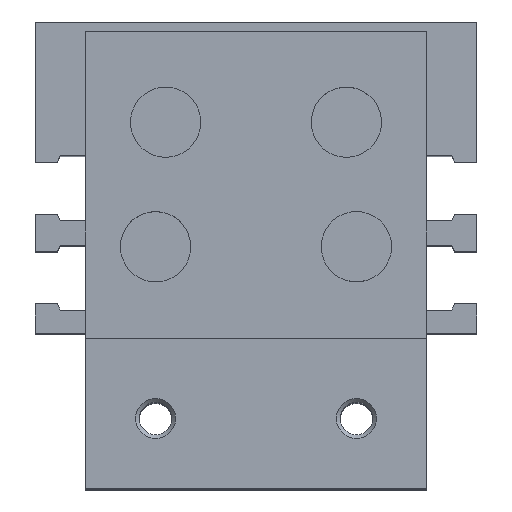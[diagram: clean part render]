
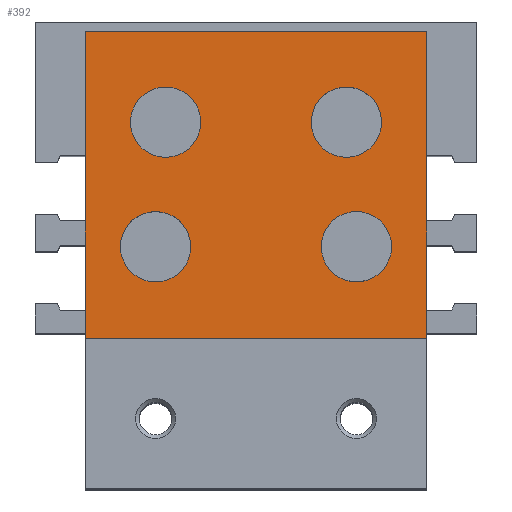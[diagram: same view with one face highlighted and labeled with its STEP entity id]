
A CAD part, top view. The second image highlights one B-rep face of the part: STEP entity #392.
In plain terms, the highlighted planar face has unit normal (0, 0, 1).
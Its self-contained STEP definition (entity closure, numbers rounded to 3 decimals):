
#392 = ADVANCED_FACE( '', ( #830, #831, #832, #833, #834 ), #835, .F. );
#830 = FACE_BOUND( '', #1256, .T. );
#831 = FACE_BOUND( '', #1257, .T. );
#832 = FACE_OUTER_BOUND( '', #1258, .T. );
#833 = FACE_BOUND( '', #1259, .T. );
#834 = FACE_BOUND( '', #1260, .T. );
#835 = PLANE( '', #1261 );
#1256 = EDGE_LOOP( '', ( #2132 ) );
#1257 = EDGE_LOOP( '', ( #2133 ) );
#1258 = EDGE_LOOP( '', ( #2134, #2135, #2136, #2137 ) );
#1259 = EDGE_LOOP( '', ( #2138 ) );
#1260 = EDGE_LOOP( '', ( #2139 ) );
#1261 = AXIS2_PLACEMENT_3D( '', #2140, #2141, #2142 );
#2132 = ORIENTED_EDGE( '', *, *, #2210, .F. );
#2133 = ORIENTED_EDGE( '', *, *, #2448, .F. );
#2134 = ORIENTED_EDGE( '', *, *, #2526, .T. );
#2135 = ORIENTED_EDGE( '', *, *, #2296, .F. );
#2136 = ORIENTED_EDGE( '', *, *, #2364, .F. );
#2137 = ORIENTED_EDGE( '', *, *, #2306, .T. );
#2138 = ORIENTED_EDGE( '', *, *, #2427, .F. );
#2139 = ORIENTED_EDGE( '', *, *, #2501, .F. );
#2140 = CARTESIAN_POINT( '', ( 34., 30.5, 0. ) );
#2141 = DIRECTION( '', ( 0., 0., -1. ) );
#2142 = DIRECTION( '', ( -1., 0., 0. ) );
#2210 = EDGE_CURVE( '', #2566, #2566, #2567, .F. );
#2296 = EDGE_CURVE( '', #2708, #2703, #2710, .T. );
#2306 = EDGE_CURVE( '', #2725, #2723, #2726, .T. );
#2364 = EDGE_CURVE( '', #2725, #2708, #2821, .T. );
#2427 = EDGE_CURVE( '', #2909, #2909, #2910, .T. );
#2448 = EDGE_CURVE( '', #2936, #2936, #2937, .T. );
#2501 = EDGE_CURVE( '', #3009, #3009, #3010, .F. );
#2526 = EDGE_CURVE( '', #2723, #2703, #3036, .T. );
#2566 = VERTEX_POINT( '', #3085 );
#2567 = CIRCLE( '', #3086, 3.5 );
#2703 = VERTEX_POINT( '', #3257 );
#2708 = VERTEX_POINT( '', #3264 );
#2710 = LINE( '', #3267, #3268 );
#2723 = VERTEX_POINT( '', #3285 );
#2725 = VERTEX_POINT( '', #3288 );
#2726 = LINE( '', #3289, #3290 );
#2821 = LINE( '', #3426, #3427 );
#2909 = VERTEX_POINT( '', #3535 );
#2910 = CIRCLE( '', #3536, 3.5 );
#2936 = VERTEX_POINT( '', #3567 );
#2937 = CIRCLE( '', #3568, 3.5 );
#3009 = VERTEX_POINT( '', #3668 );
#3010 = CIRCLE( '', #3669, 3.5 );
#3036 = LINE( '', #3701, #3702 );
#3085 = CARTESIAN_POINT( '', ( 4.5, 21.5, 0. ) );
#3086 = AXIS2_PLACEMENT_3D( '', #3734, #3735, #3736 );
#3257 = CARTESIAN_POINT( '', ( 0., 0., 0. ) );
#3264 = CARTESIAN_POINT( '', ( 34., 0., 0. ) );
#3267 = CARTESIAN_POINT( '', ( 34., 0., 0. ) );
#3268 = VECTOR( '', #3844, 1000. );
#3285 = CARTESIAN_POINT( '', ( 0., 30.5, 0. ) );
#3288 = CARTESIAN_POINT( '', ( 34., 30.5, 0. ) );
#3289 = CARTESIAN_POINT( '', ( 34., 30.5, 0. ) );
#3290 = VECTOR( '', #3850, 1000. );
#3426 = CARTESIAN_POINT( '', ( 34., 30.5, 0. ) );
#3427 = VECTOR( '', #3919, 1000. );
#3535 = CARTESIAN_POINT( '', ( 29.5, 21.5, 0. ) );
#3536 = AXIS2_PLACEMENT_3D( '', #3994, #3995, #3996 );
#3567 = CARTESIAN_POINT( '', ( 10.5, 9.1, 0. ) );
#3568 = AXIS2_PLACEMENT_3D( '', #4017, #4018, #4019 );
#3668 = CARTESIAN_POINT( '', ( 23.5, 9.1, 0. ) );
#3669 = AXIS2_PLACEMENT_3D( '', #4075, #4076, #4077 );
#3701 = CARTESIAN_POINT( '', ( 0., 30.5, 0. ) );
#3702 = VECTOR( '', #4087, 1000. );
#3734 = CARTESIAN_POINT( '', ( 8., 21.5, 0. ) );
#3735 = DIRECTION( '', ( 0., 0., -1. ) );
#3736 = DIRECTION( '', ( -1., 0., 0. ) );
#3844 = DIRECTION( '', ( -1., 0., 0. ) );
#3850 = DIRECTION( '', ( -1., 0., 0. ) );
#3919 = DIRECTION( '', ( 0., -1., 0. ) );
#3994 = CARTESIAN_POINT( '', ( 26., 21.5, 0. ) );
#3995 = DIRECTION( '', ( 0., 0., 1. ) );
#3996 = DIRECTION( '', ( 1., 0., 0. ) );
#4017 = CARTESIAN_POINT( '', ( 7., 9.1, 0. ) );
#4018 = DIRECTION( '', ( 0., 0., 1. ) );
#4019 = DIRECTION( '', ( 1., 0., 0. ) );
#4075 = CARTESIAN_POINT( '', ( 27., 9.1, 0. ) );
#4076 = DIRECTION( '', ( 0., 0., -1. ) );
#4077 = DIRECTION( '', ( -1., 0., 0. ) );
#4087 = DIRECTION( '', ( 0., -1., 0. ) );
